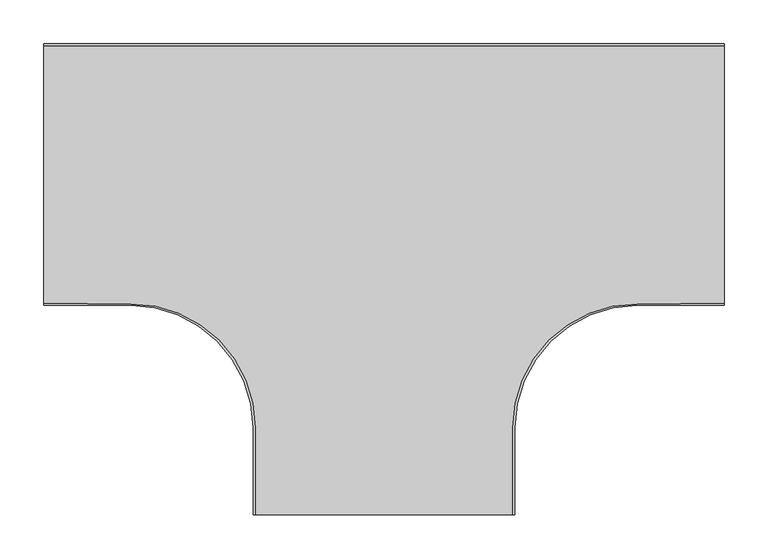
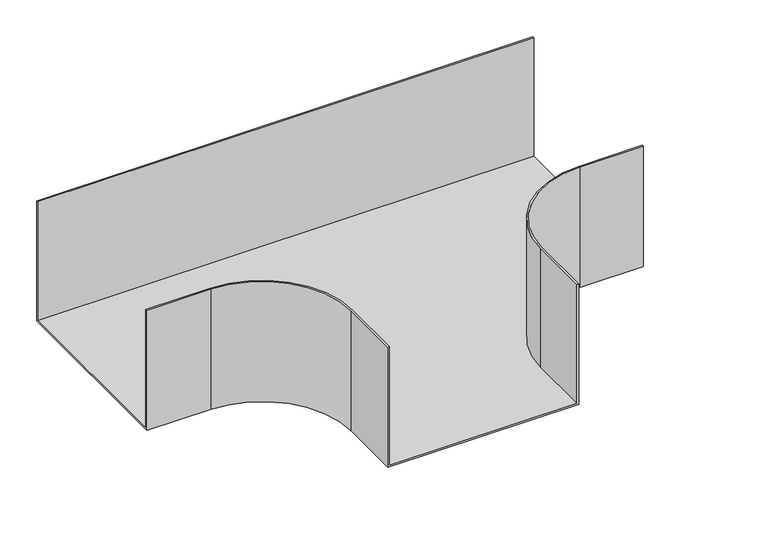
"""IFC4 building model written with IfcOpenShell, lengths in millimetres: cable carrier fitting geometry, BAKS_Tee_TKZ : TKZPH200."""

from ifc_helpers import new_model, si_unit, frame, origin, place, context, project, spatial, polyline, circle_curve, source, transform, mapped, element, save
from ifc_brep_helpers import plane_surface, cylinder_surface, revolved_surface, advanced_brep


def cable_carrier_fitting_a17deca8(model_context):
    return source(origin(), model_context, "Body", "AdvancedBrep", [
        advanced_brep(
        [(-150.0, -290.0, 100.0), (-150.0, -390.0, 100.0), (-147.46, -390.0, 100.0), (-147.46, -290.0, 100.0), (-290.0, -148.503822, 100.0), (-390.0, -147.46, 100.0), (-390.0, -150.0, 100.0), (-290.0, -150.0, 100.0), (150.0, -290.0, 100.0), (290.0, -150.0, 100.0), (390.0, -150.0, 100.0), (390.0, -147.46, 100.0), (290.0, -148.503822, 100.0), (147.46, -290.0, 100.0), (147.46, -390.0, 100.0), (150.0, -390.0, 100.0), (390.0, 150.0, 100.0), (-390.0, 150.0, 100.0), (-390.0, 147.46, 100.0), (390.0, 147.46, 100.0), (-150.0, -290.0, -100.0), (-290.0, -150.0, -100.0), (-390.0, -150.0, -100.0), (-390.0, 150.0, -100.0), (390.0, 150.0, -100.0), (390.0, -150.0, -100.0), (290.0, -150.0, -100.0), (150.0, -290.0, -100.0), (150.0, -390.0, -100.0), (-150.0, -390.0, -100.0), (-150.0, -290.0, -97.46), (147.46, -390.0, -97.46), (-147.46, -390.0, -97.46), (-147.46, -290.0, -97.46), (-290.0, -148.503822, -97.46), (-390.0, -147.46, -97.46), (-390.0, 147.46, -97.46), (-290.0, -150.0, -97.46), (150.0, -290.0, -97.46), (290.0, -150.0, -97.46), (390.0, 147.46, -97.46), (390.0, -147.46, -97.46), (290.0, -148.503822, -97.46), (147.46, -290.0, -97.46)],
        [
            (0, 1),
            (1, 2),
            (2, 3),
            (3, 4, circle_curve(frame((-288.96, -290.0, 100.0), z_axis=(0.0, 0.0, 1.0), x_axis=(1.0, 0.0, 0.0)), 141.5)),
            (4, 5),
            (5, 6),
            (6, 7),
            (7, 0, circle_curve(frame((-290.0, -290.0, 100.0), z_axis=(0.0, 0.0, -1.0), x_axis=(1.0, 0.0, 0.0)), 140.0)),
            (8, 9, circle_curve(frame((290.0, -290.0, 100.0), z_axis=(0.0, 0.0, -1.0), x_axis=(1.0, 0.0, 0.0)), 140.0)),
            (9, 10),
            (10, 11),
            (11, 12),
            (12, 13, circle_curve(frame((288.96, -290.0, 100.0), z_axis=(0.0, 0.0, 1.0), x_axis=(1.0, 0.0, 0.0)), 141.5)),
            (13, 14),
            (14, 15),
            (15, 8),
            (16, 17),
            (17, 18),
            (18, 19),
            (19, 16),
            (20, 21, circle_curve(frame((-290.0, -290.0, -100.0), z_axis=(0.0, 0.0, 1.0), x_axis=(1.0, 0.0, 0.0)), 140.0)),
            (21, 22),
            (22, 23),
            (23, 24),
            (24, 25),
            (25, 26),
            (26, 27, circle_curve(frame((290.0, -290.0, -100.0), z_axis=(0.0, 0.0, 1.0), x_axis=(1.0, 0.0, 0.0)), 140.0)),
            (27, 28),
            (28, 29),
            (29, 20),
            (29, 1),
            (0, 30),
            (30, 20),
            (28, 15),
            (14, 31),
            (31, 32),
            (32, 2),
            (32, 33),
            (33, 3),
            (33, 34, circle_curve(frame((-288.96, -290.0, -97.46), z_axis=(0.0, 0.0, 1.0), x_axis=(1.0, 0.0, 0.0)), 141.5)),
            (34, 4),
            (34, 35),
            (35, 5),
            (35, 36),
            (36, 18),
            (17, 23),
            (22, 6),
            (21, 37),
            (37, 7),
            (8, 38),
            (38, 27),
            (26, 39),
            (39, 9),
            (25, 10),
            (24, 16),
            (19, 40),
            (40, 41),
            (41, 11),
            (41, 42),
            (42, 12),
            (42, 43, circle_curve(frame((288.96, -290.0, -97.46), z_axis=(0.0, 0.0, 1.0), x_axis=(1.0, 0.0, 0.0)), 141.5)),
            (43, 13),
            (43, 31),
            (36, 40),
        ],
        [
            plane_surface(frame((-150.0, -290.0, 100.0), z_axis=(0.0, 0.0, 1.0), x_axis=(0.0, -1.0, 0.0))),
            plane_surface(frame((-150.0, -290.0, -100.0), z_axis=(0.0, 0.0, -1.0), x_axis=(0.0, 1.0, 0.0))),
            plane_surface(frame((-150.0, -290.0, 100.0), z_axis=(-1.0, 0.0, 0.0), x_axis=(0.0, 0.0, -1.0))),
            plane_surface(frame((-150.0, -390.0, 100.0), z_axis=(0.0, -1.0, 0.0), x_axis=(0.0, 0.0, -1.0))),
            plane_surface(frame((-147.46, -390.0, 100.0), z_axis=(1.0, 0.0, 0.0), x_axis=(0.0, 0.0, -1.0))),
            cylinder_surface(frame((-288.96, -290.0, -100.0), z_axis=(0.0, 0.0, 1.0), x_axis=(1.0, 0.0, 0.0)), 141.5),
            plane_surface(frame((-290.0, -148.503822, 100.0), z_axis=(0.010437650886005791, 0.9999455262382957, 0.0), x_axis=(0.0, 0.0, -1.0))),
            plane_surface(frame((-390.0, -147.46, 100.0), z_axis=(-1.0, 0.0, 0.0), x_axis=(0.0, 0.0, -1.0))),
            plane_surface(frame((-390.0, -150.0, 100.0), z_axis=(0.0, -1.0, 0.0), x_axis=(0.0, 0.0, -1.0))),
            revolved_surface(polyline([(-150.0, -290.0, -100.0), (-150.0, -290.0, 100.0)]), (-290.0, -290.0, -100.0), (0.0, 0.0, -1.0)),
            revolved_surface(polyline([(430.0, -290.0, -100.0), (430.0, -290.0, 100.0)]), (290.0, -290.0, 0.0), (0.0, 0.0, -1.0)),
            plane_surface(frame((290.0, -150.0, 100.0), z_axis=(0.0, -1.0, 0.0), x_axis=(0.0, 0.0, -1.0))),
            plane_surface(frame((390.0, -150.0, 100.0), z_axis=(1.0, 0.0, 0.0), x_axis=(0.0, 0.0, -1.0))),
            plane_surface(frame((390.0, -147.46, 100.0), z_axis=(-0.01043765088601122, 0.9999455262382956, 0.0), x_axis=(0.0, 0.0, -1.0))),
            cylinder_surface(frame((288.96, -290.0, 0.0), z_axis=(0.0, 0.0, 1.0), x_axis=(1.0, 0.0, 0.0)), 141.5),
            plane_surface(frame((147.46, -290.0, 100.0), z_axis=(-1.0, 0.0, 0.0), x_axis=(0.0, 0.0, -1.0))),
            plane_surface(frame((150.0, -390.0, 100.0), z_axis=(1.0, 0.0, 0.0), x_axis=(0.0, 0.0, -1.0))),
            plane_surface(frame((390.0, 150.0, 100.0), z_axis=(0.0, 1.0, 0.0), x_axis=(0.0, 0.0, -1.0))),
            plane_surface(frame((-390.0, 147.46, 100.0), z_axis=(0.0, -1.0, 0.0), x_axis=(0.0, 0.0, -1.0))),
            plane_surface(frame((-150.0, -290.0, -97.46), z_axis=(0.0, 0.0, 1.0), x_axis=(0.0, -1.0, 0.0))),
        ],
        [
            (0, [[1, 2, 3, 4, 5, 6, 7, 8]]),
            (0, [[9, 10, 11, 12, 13, 14, 15, 16]]),
            (0, [[17, 18, 19, 20]]),
            (1, [[21, 22, 23, 24, 25, 26, 27, 28, 29, 30]]),
            (2, [[31, -1, 32, 33, -30]]),
            (3, [[-2, -31, -29, 34, -15, 35, 36, 37]]),
            (4, [[-3, -37, 38, 39]]),
            (5, [[-4, -39, 40, 41]]),
            (6, [[-5, -41, 42, 43]]),
            (7, [[-6, -43, 44, 45, -18, 46, -23, 47]]),
            (8, [[-7, -47, -22, 48, 49]]),
            (9, [[-8, -49, -48, -21, -33, -32]]),
            (10, [[-9, 50, 51, -27, 52, 53]]),
            (11, [[54, -10, -53, -52, -26]]),
            (12, [[-11, -54, -25, 55, -20, 56, 57, 58]]),
            (13, [[-12, -58, 59, 60]]),
            (14, [[-13, -60, 61, 62]]),
            (15, [[-14, -62, 63, -35]]),
            (16, [[-16, -34, -28, -51, -50]]),
            (17, [[-46, -17, -55, -24]]),
            (18, [[-19, -45, 64, -56]]),
            (19, [[-36, -63, -61, -59, -57, -64, -44, -42, -40, -38]]),
        ],
    ),
    ])


if __name__ == "__main__":
    model = new_model("IFC4")
    model_context = context("Model", 3, world=origin())
    ifc_project = project(units=[si_unit("LENGTHUNIT", "METRE", prefix="MILLI")], contexts=[model_context])
    site = spatial("IfcSite", under=ifc_project)
    building = spatial("IfcBuilding", under=site)
    placement = place(None, origin())
    cable_carrier_fitting_shape = cable_carrier_fitting_a17deca8(model_context)
    element("IfcCableCarrierFitting", 1, ObjectType="BAKS_Tee_TKZ : TKZPH200", at=placement, inside=building, context=model_context, shape_type="MappedRepresentation", body=[
        mapped(cable_carrier_fitting_shape, transform((0.0, 0.0, 0.0), x_axis=(1.0, 0.0, 0.0), y_axis=(0.0, 1.0, 0.0), z_axis=(0.0, 0.0, 1.0))),
    ])
    save(model, "model.ifc")
